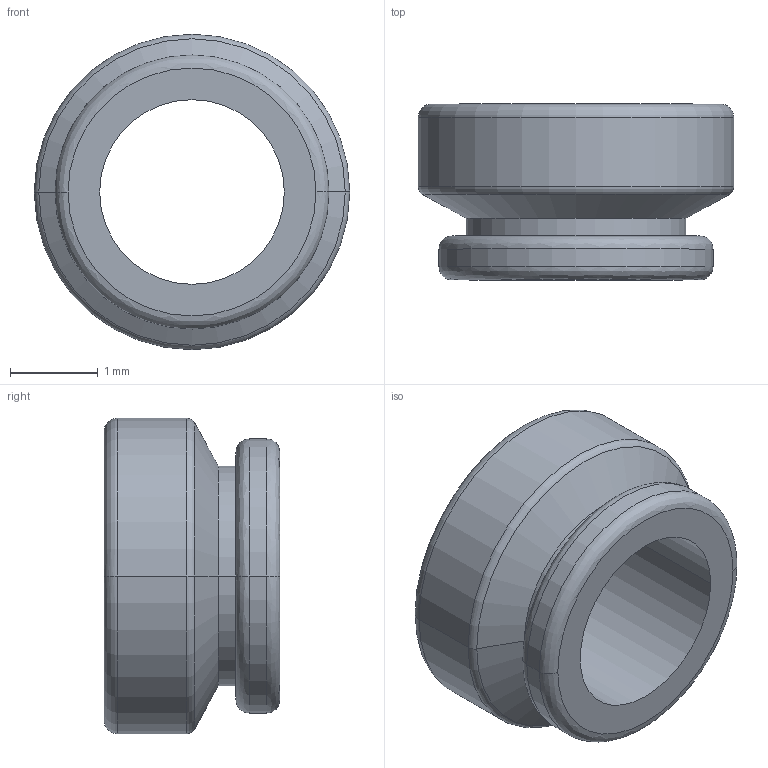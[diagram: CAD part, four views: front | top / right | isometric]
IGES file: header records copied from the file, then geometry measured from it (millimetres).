
Start section:  PTC IGES file: f20-36-20_prt.igs
Global section: file name: f20-36-20_prt.igs; native system: Pro/ENGINEER by Parametric Technology Corporation; preprocessor: 2000030; author: ECaille; organization: Unknown; date: 000803.091941; units: millimetre
Bounding box: 3.59 x 2 x 3.59 mm (x, y, z)
Surface area: 48.3 mm2 (no closed solid volume)
Topology: 0 solids, 0 shells, 21 faces, 117 edges, 138 vertices
Faces by surface type: revolution 18, bspline 3
